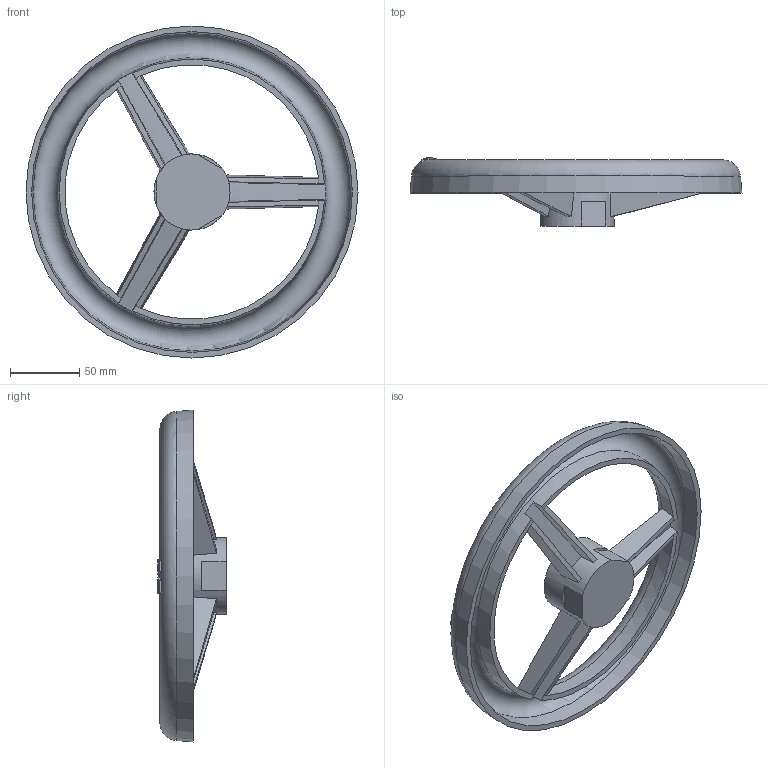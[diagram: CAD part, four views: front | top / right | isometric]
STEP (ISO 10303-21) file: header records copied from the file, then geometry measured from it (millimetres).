
FILE_DESCRIPTION (( 'STEP AP203' ), '1' );
FILE_NAME ('O_08_66_DN150_AA0.step', '2018-07-17T10:50:44', ( 'Windows User' ), ( 'AVK' ), 'SwSTEP 2.0', 'SolidWorks 2012', '' );
FILE_SCHEMA (( 'CONFIG_CONTROL_DESIGN' ));
Length unit declared in the file: millimetre
Products named in the file (1): O_08_66_DN150_AA0
Bounding box: 240 x 49.5 x 240 mm (x, y, z)
Volume: 275927.9 mm3; surface area: 109092.6 mm2
Topology: 1 solids, 1 shells, 144 faces, 394 edges, 256 vertices
Faces by surface type: plane 61, bspline 45, cone 30, torus 6, cylinder 2
Full cylindrical faces by diameter (mm): 16 x1, 55 x1
Entity records: 7385 total; most frequent: CARTESIAN_POINT 4255, ORIENTED_EDGE 766, DIRECTION 410, EDGE_CURVE 383, VERTEX_POINT 252, B_SPLINE_CURVE_WITH_KNOTS 226, EDGE_LOOP 161, AXIS2_PLACEMENT_3D 159
